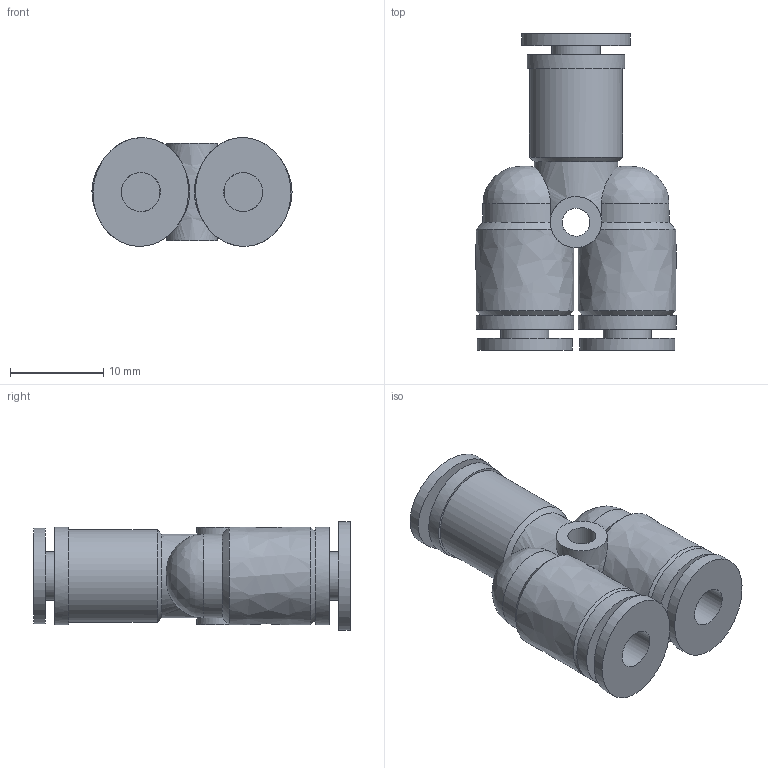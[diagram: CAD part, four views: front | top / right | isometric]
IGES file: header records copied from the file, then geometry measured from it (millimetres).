
Global section: file name: 140.004; native system: Autodesk Inventor 2015; preprocessor: unknown; author: Wojciech Koczwara; date: 20140909.082042; units: millimetre
Bounding box: 21.5 x 34 x 11.69 mm (x, y, z)
Volume: 2545.5 mm3; surface area: 4553.1 mm2
Topology: 7 solids, 7 shells, 62 faces, 130 edges, 86 vertices
Faces by surface type: bspline 62
